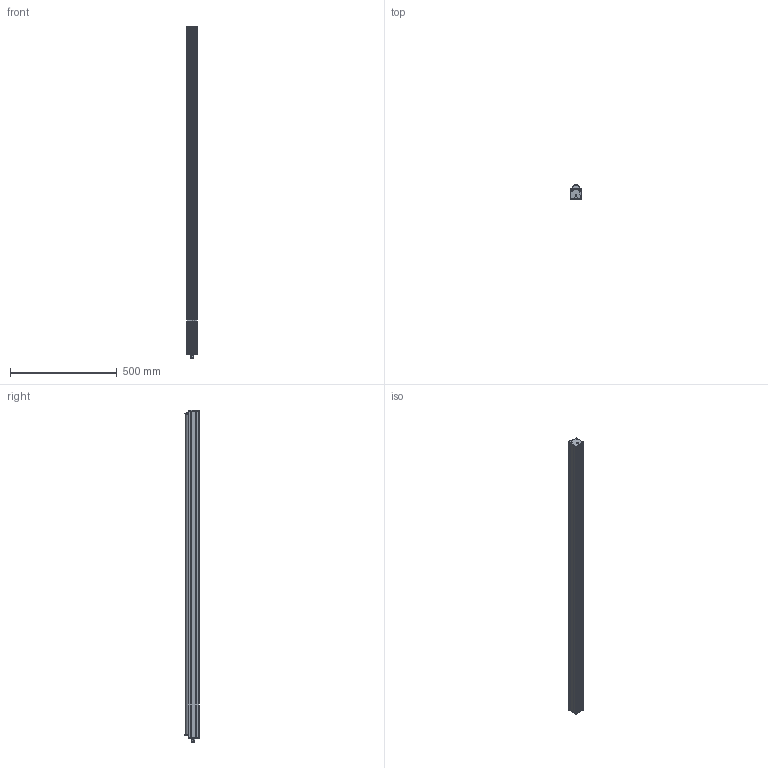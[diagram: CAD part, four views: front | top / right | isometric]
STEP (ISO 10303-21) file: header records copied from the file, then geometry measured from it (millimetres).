
FILE_DESCRIPTION (( 'STEP AP214' ), '1' );
FILE_NAME ('EFFI-FLEX2-1500-ZZZ-CYL-1M12P.STEP', '2026-06-18T10:12:46', ( '' ), ( '' ), 'SwSTEP 2.0', 'SolidWorks 2025', '' );
FILE_SCHEMA (( 'AUTOMOTIVE_DESIGN' ));
Length unit declared in the file: millimetre
Products named in the file (7): 000605; 018305-MODELE GENERIQUE; 018941-MODELE GENERIQUE; 018302-MODELE GENERIQUE; 006434; EFFI-FLEX2-1500-ZZZ-CYL-1M12P; 017872-MODELE GENERIQUE AVEC LENTILLE_1500
Assembly tree (12 placements, depth 2):
  EFFI-FLEX2-1500-ZZZ-CYL-1M12P
    017872-MODELE GENERIQUE AVEC LENTILLE_1500
    018302-MODELE GENERIQUE
    018305-MODELE GENERIQUE
    000605  x6
    018941-MODELE GENERIQUE  x2
    006434
Bounding box: 51.01 x 66.47 x 1552 mm (x, y, z)
Volume: 3967983.3 mm3; surface area: 655647.3 mm2
Topology: 13 solids, 17 shells, 927 faces, 2348 edges, 1483 vertices
Faces by surface type: plane 401, cylinder 229, cone 176, bspline 80, torus 33, sphere 8
Entity records: 24778 total; most frequent: CARTESIAN_POINT 7436, ORIENTED_EDGE 3600, DIRECTION 3554, EDGE_CURVE 1800, AXIS2_PLACEMENT_3D 1296, VERTEX_POINT 1161, LINE 962, VECTOR 962
